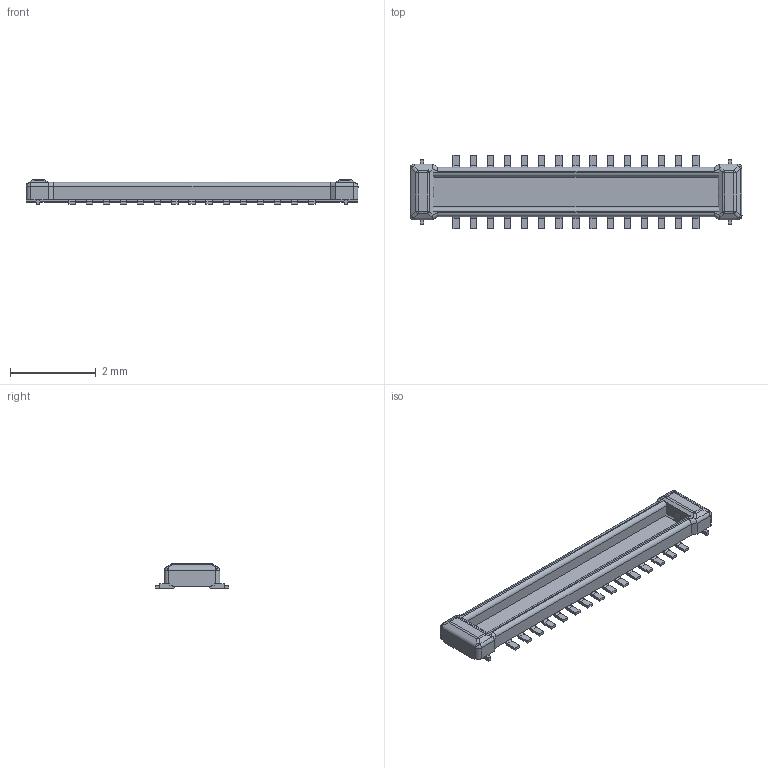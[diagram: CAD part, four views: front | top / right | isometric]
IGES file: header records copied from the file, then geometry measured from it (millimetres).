
Start section: SolidWorks IGES file using analytic representation for surfaces
Global section: file name: C:\Users\110565014\Desktop\14_5807_030_012_829_+.IGS; native system: SolidWorks 2014; preprocessor: SolidWorks 2014; author: 110565014; date: 160405.145544; units: millimetre
Bounding box: 7.76 x 1.72 x 0.57 mm (x, y, z)
Surface area: 35.7 mm2 (no closed solid volume)
Topology: 0 solids, 0 shells, 352 faces, 2252 edges, 2235 vertices
Faces by surface type: bspline 262, revolution 90
